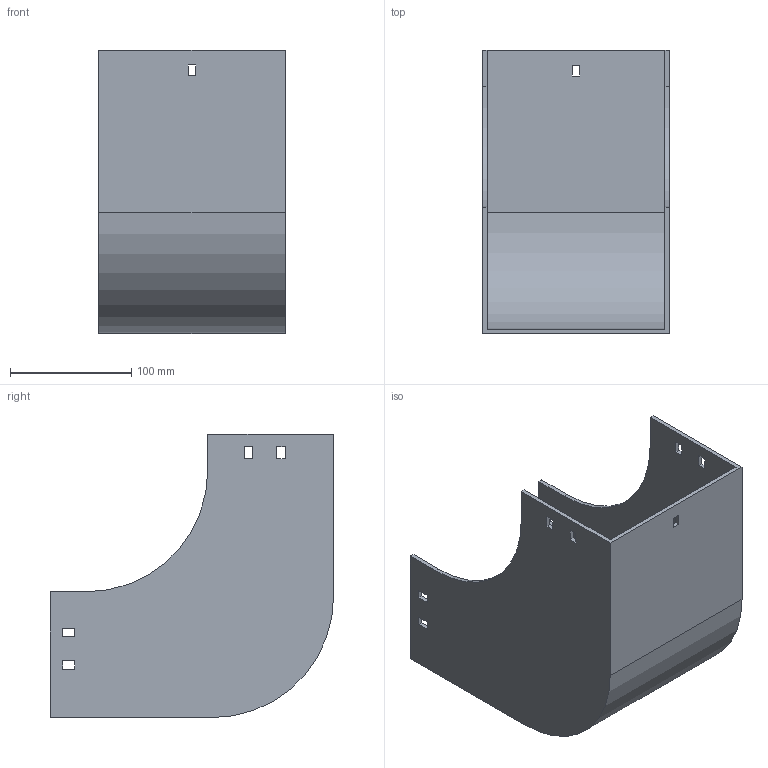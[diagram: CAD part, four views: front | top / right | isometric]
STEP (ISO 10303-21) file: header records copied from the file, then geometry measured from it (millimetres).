
FILE_DESCRIPTION (( 'STEP AP214' ), '1' );
FILE_NAME ('30F1D150.step', '2025-02-21T13:01:03', ( '' ), ( '' ), 'SwSTEP 2.0', 'SolidWorks 2023', '' );
FILE_SCHEMA (( 'AUTOMOTIVE_DESIGN' ));
Length unit declared in the file: millimetre
Products named in the file (1): 30F1D150
Bounding box: 154 x 234 x 234 mm (x, y, z)
Volume: 479911.7 mm3; surface area: 279428 mm2
Topology: 1 solids, 1 shells, 58 faces, 168 edges, 112 vertices
Faces by surface type: plane 54, cylinder 4
Entity records: 1943 total; most frequent: CARTESIAN_POINT 339, ORIENTED_EDGE 336, DIRECTION 294, EDGE_CURVE 168, VECTOR 160, LINE 160, VERTEX_POINT 112, EDGE_LOOP 78
